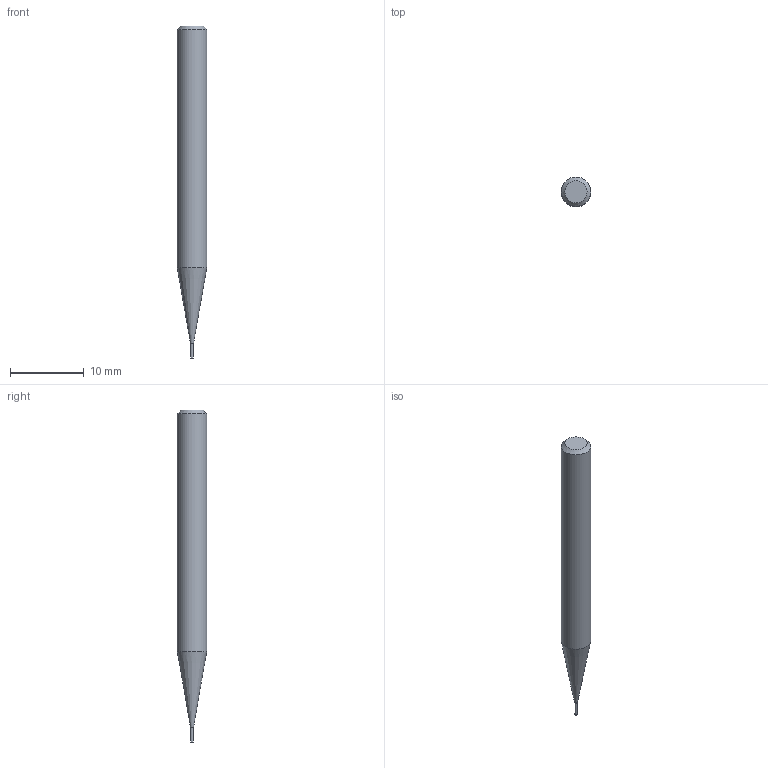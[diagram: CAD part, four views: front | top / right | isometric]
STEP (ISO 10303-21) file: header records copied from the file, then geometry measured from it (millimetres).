
FILE_DESCRIPTION((''),'2;1');
FILE_NAME('C:\Users\nsx150\Desktop\RSE230_20210427\01-00644-00401 RSE230 D0_4X2.step','2021-05-07T14:52:34',(''),(''),'STEP Write','Mastercam 2021 ... CNC Software, Inc.','');
FILE_SCHEMA(('AUTOMOTIVE_DESIGN'));
Length unit declared in the file: millimetre
Products named in the file (1): None
Bounding box: 4 x 4 x 45 mm (x, y, z)
Volume: 458.3 mm3; surface area: 495.2 mm2
Topology: 2 solids, 2 shells, 8 faces, 10 edges, 6 vertices
Faces by surface type: plane 4, cylinder 2, cone 2
Full cylindrical faces by diameter (mm): 0.4 x1, 4 x1
Entity records: 190 total; most frequent: DIRECTION 32, CARTESIAN_POINT 22, AXIS2_PLACEMENT_3D 16, ORIENTED_EDGE 12, EDGE_LOOP 12, STYLED_ITEM 11, ADVANCED_FACE 8, VERTEX_POINT 6
